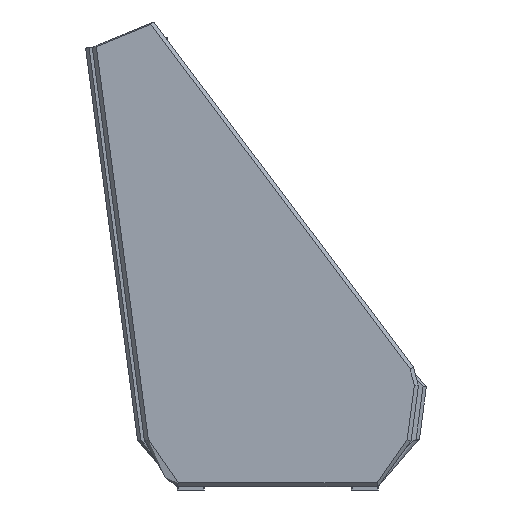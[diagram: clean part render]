
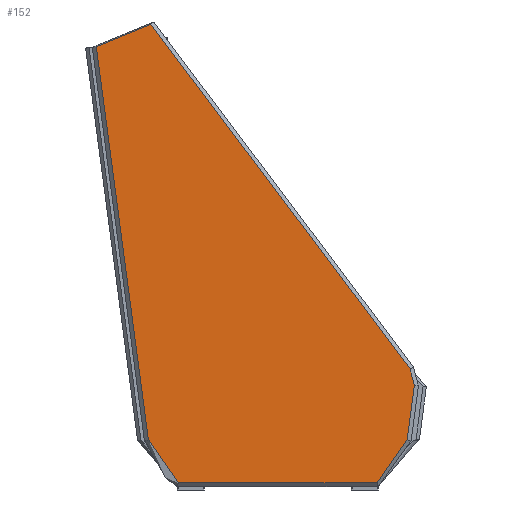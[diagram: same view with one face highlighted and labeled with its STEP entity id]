
A CAD part, left-side view. The second image highlights one B-rep face of the part: STEP entity #152.
In plain terms, the highlighted planar face has unit normal (-1, 0, 0).
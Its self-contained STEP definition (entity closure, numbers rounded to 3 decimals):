
#152=ADVANCED_FACE('',(#305),#2181,.T.);
#305=FACE_OUTER_BOUND('',#458,.T.);
#458=EDGE_LOOP('',(#861,#862,#863,#864,#865,#866,#867,#868));
#861=ORIENTED_EDGE('',*,*,#1416,.F.);
#862=ORIENTED_EDGE('',*,*,#1404,.F.);
#863=ORIENTED_EDGE('',*,*,#1400,.F.);
#864=ORIENTED_EDGE('',*,*,#1414,.F.);
#865=ORIENTED_EDGE('',*,*,#1411,.F.);
#866=ORIENTED_EDGE('',*,*,#1408,.F.);
#867=ORIENTED_EDGE('',*,*,#1418,.F.);
#868=ORIENTED_EDGE('',*,*,#1398,.T.);
#1398=EDGE_CURVE('',#2044,#2043,#1763,.T.);
#1400=EDGE_CURVE('',#2047,#2048,#1765,.T.);
#1404=EDGE_CURVE('',#2048,#2050,#1769,.T.);
#1408=EDGE_CURVE('',#2054,#2053,#1773,.T.);
#1411=EDGE_CURVE('',#2053,#2056,#1776,.T.);
#1414=EDGE_CURVE('',#2056,#2047,#1779,.T.);
#1416=EDGE_CURVE('',#2050,#2043,#1781,.T.);
#1418=EDGE_CURVE('',#2044,#2054,#1783,.T.);
#1763=(
BOUNDED_CURVE()
B_SPLINE_CURVE(1,(#3387,#3388),.UNSPECIFIED.,.F.,.F.)
B_SPLINE_CURVE_WITH_KNOTS((2,2),(2.934,597.17),
 .UNSPECIFIED.)
CURVE()
GEOMETRIC_REPRESENTATION_ITEM()
RATIONAL_B_SPLINE_CURVE((1.,1.))
REPRESENTATION_ITEM('')
);
#1765=(
BOUNDED_CURVE()
B_SPLINE_CURVE(3,(#3392,#3393,#3394,#3395,#3396),.UNSPECIFIED.,.F.,.F.)
B_SPLINE_CURVE_WITH_KNOTS((4,1,4),(0.,26.415,
52.83),.UNSPECIFIED.)
CURVE()
GEOMETRIC_REPRESENTATION_ITEM()
RATIONAL_B_SPLINE_CURVE((1.,1.,1.,1.,1.))
REPRESENTATION_ITEM('')
);
#1769=(
BOUNDED_CURVE()
B_SPLINE_CURVE(1,(#3405,#3406),.UNSPECIFIED.,.F.,.F.)
B_SPLINE_CURVE_WITH_KNOTS((2,2),(0.,163.924),
 .UNSPECIFIED.)
CURVE()
GEOMETRIC_REPRESENTATION_ITEM()
RATIONAL_B_SPLINE_CURVE((1.,1.))
REPRESENTATION_ITEM('')
);
#1773=(
BOUNDED_CURVE()
B_SPLINE_CURVE(1,(#3415,#3416),.UNSPECIFIED.,.F.,.F.)
B_SPLINE_CURVE_WITH_KNOTS((2,2),(0.,1184.771),
 .UNSPECIFIED.)
CURVE()
GEOMETRIC_REPRESENTATION_ITEM()
RATIONAL_B_SPLINE_CURVE((1.,1.))
REPRESENTATION_ITEM('')
);
#1776=(
BOUNDED_CURVE()
B_SPLINE_CURVE(3,(#3425,#3426,#3427,#3428,#3429,#3430,#3431,#3432,#3433,
#3434,#3435),.UNSPECIFIED.,.F.,.F.)
B_SPLINE_CURVE_WITH_KNOTS((4,1,1,1,1,1,1,1,4),(0.,29.067,
59.791,90.515,119.582,148.648,179.373,
210.097,239.163),.UNSPECIFIED.)
CURVE()
GEOMETRIC_REPRESENTATION_ITEM()
RATIONAL_B_SPLINE_CURVE((1.,1.,1.,1.,1.,1.,1.,1.,1.,1.,1.))
REPRESENTATION_ITEM('')
);
#1779=(
BOUNDED_CURVE()
B_SPLINE_CURVE(1,(#3441,#3442),.UNSPECIFIED.,.F.,.F.)
B_SPLINE_CURVE_WITH_KNOTS((2,2),(0.,1287.654),
 .UNSPECIFIED.)
CURVE()
GEOMETRIC_REPRESENTATION_ITEM()
RATIONAL_B_SPLINE_CURVE((1.,1.))
REPRESENTATION_ITEM('')
);
#1781=(
BOUNDED_CURVE()
B_SPLINE_CURVE(3,(#3446,#3447,#3448,#3449,#3450,#3451,#3452,#3453,#3454,
#3455),.UNSPECIFIED.,.F.,.F.)
B_SPLINE_CURVE_WITH_KNOTS((4,3,3,4),(0.,61.354,
122.934,162.662),.UNSPECIFIED.)
CURVE()
GEOMETRIC_REPRESENTATION_ITEM()
RATIONAL_B_SPLINE_CURVE((1.,1.,1.,1.,1.,1.,1.,1.,1.,1.))
REPRESENTATION_ITEM('')
);
#1783=(
BOUNDED_CURVE()
B_SPLINE_CURVE(3,(#3459,#3460,#3461,#3462,#3463,#3464,#3465,#3466,#3467,
#3468),.UNSPECIFIED.,.F.,.F.)
B_SPLINE_CURVE_WITH_KNOTS((4,3,3,4),(83.206,122.934,
184.514,245.868),.UNSPECIFIED.)
CURVE()
GEOMETRIC_REPRESENTATION_ITEM()
RATIONAL_B_SPLINE_CURVE((1.,1.,1.,1.,1.,
1.,1.,1.,1.,1.))
REPRESENTATION_ITEM('')
);
#2043=VERTEX_POINT('',#3353);
#2044=VERTEX_POINT('',#3354);
#2047=VERTEX_POINT('',#3357);
#2048=VERTEX_POINT('',#3358);
#2050=VERTEX_POINT('',#3360);
#2053=VERTEX_POINT('',#3363);
#2054=VERTEX_POINT('',#3364);
#2056=VERTEX_POINT('',#3366);
#2181=PLANE('',#2411);
#2411=AXIS2_PLACEMENT_3D('',#3308,#2438,$);
#2438=DIRECTION('',(-1.,0.,0.));
#3308=CARTESIAN_POINT('',(-475.,-542.626,-192.099));
#3353=CARTESIAN_POINT('',(-475.,-297.118,21.));
#3354=CARTESIAN_POINT('',(-475.,297.118,21.));
#3357=CARTESIAN_POINT('',(-475.,-395.001,361.871));
#3358=CARTESIAN_POINT('',(-475.,-408.078,312.046));
#3360=CARTESIAN_POINT('',(-475.,-386.54,149.544));
#3363=CARTESIAN_POINT('',(-475.,542.208,1324.043));
#3364=CARTESIAN_POINT('',(-475.,386.54,149.544));
#3366=CARTESIAN_POINT('',(-475.,379.287,1390.72));
#3387=CARTESIAN_POINT('',(-475.,297.118,21.));
#3388=CARTESIAN_POINT('',(-475.,-297.118,21.));
#3392=CARTESIAN_POINT('',(-475.,-395.001,361.871));
#3393=CARTESIAN_POINT('',(-475.,-400.301,354.839));
#3394=CARTESIAN_POINT('',(-475.,-408.111,338.683));
#3395=CARTESIAN_POINT('',(-475.,-409.242,320.775));
#3396=CARTESIAN_POINT('',(-475.,-408.078,312.046));
#3405=CARTESIAN_POINT('',(-475.,-408.078,312.046));
#3406=CARTESIAN_POINT('',(-475.,-386.54,149.544));
#3415=CARTESIAN_POINT('',(-475.,386.54,149.544));
#3416=CARTESIAN_POINT('',(-475.,542.208,1324.043));
#3425=CARTESIAN_POINT('',(-475.,542.208,1324.043));
#3426=CARTESIAN_POINT('',(-475.,543.484,1333.648));
#3427=CARTESIAN_POINT('',(-475.,542.919,1353.827));
#3428=CARTESIAN_POINT('',(-475.,532.241,1382.509));
#3429=CARTESIAN_POINT('',(-475.,512.661,1406.033));
#3430=CARTESIAN_POINT('',(-475.,487.056,1421.665));
#3431=CARTESIAN_POINT('',(-475.,457.838,1428.469));
#3432=CARTESIAN_POINT('',(-475.,427.384,1425.423));
#3433=CARTESIAN_POINT('',(-475.,399.661,1412.456));
#3434=CARTESIAN_POINT('',(-475.,385.111,1398.463));
#3435=CARTESIAN_POINT('',(-475.,379.287,1390.72));
#3441=CARTESIAN_POINT('',(-475.,379.287,1390.72));
#3442=CARTESIAN_POINT('',(-475.,-395.001,361.871));
#3446=CARTESIAN_POINT('',(-475.,-386.54,149.544));
#3447=CARTESIAN_POINT('',(-475.,-383.862,129.268));
#3448=CARTESIAN_POINT('',(-475.,-377.492,109.485));
#3449=CARTESIAN_POINT('',(-475.,-367.851,91.45));
#3450=CARTESIAN_POINT('',(-475.,-358.174,73.349));
#3451=CARTESIAN_POINT('',(-475.,-345.203,57.008));
#3452=CARTESIAN_POINT('',(-475.,-329.765,43.482));
#3453=CARTESIAN_POINT('',(-475.,-319.806,34.755));
#3454=CARTESIAN_POINT('',(-475.,-308.82,27.2));
#3455=CARTESIAN_POINT('',(-475.,-297.118,21.));
#3459=CARTESIAN_POINT('',(-475.,297.118,21.));
#3460=CARTESIAN_POINT('',(-475.,308.82,27.2));
#3461=CARTESIAN_POINT('',(-475.,319.806,34.755));
#3462=CARTESIAN_POINT('',(-475.,329.765,43.482));
#3463=CARTESIAN_POINT('',(-475.,345.203,57.008));
#3464=CARTESIAN_POINT('',(-475.,358.174,73.349));
#3465=CARTESIAN_POINT('',(-475.,367.851,91.45));
#3466=CARTESIAN_POINT('',(-475.,377.492,109.485));
#3467=CARTESIAN_POINT('',(-475.,383.862,129.268));
#3468=CARTESIAN_POINT('',(-475.,386.54,149.544));
